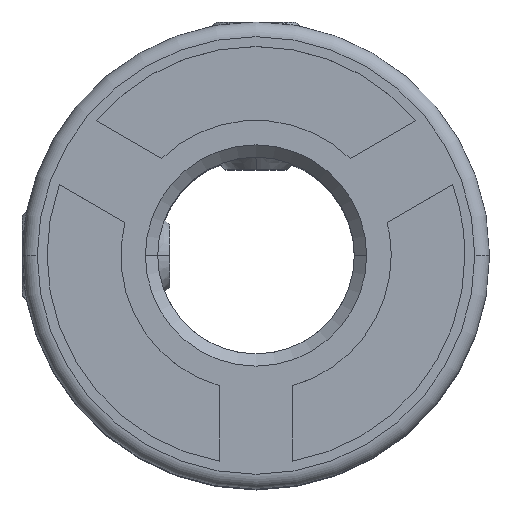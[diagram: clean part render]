
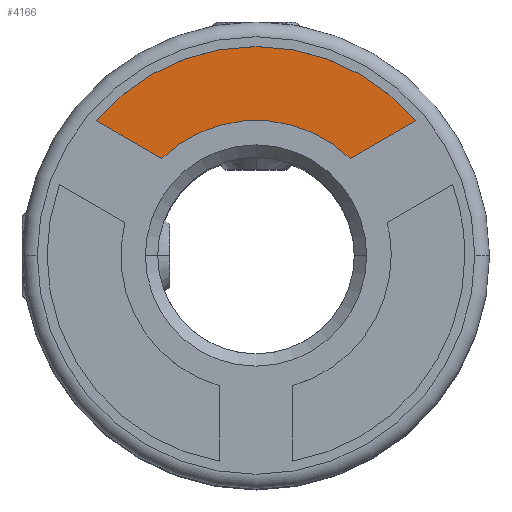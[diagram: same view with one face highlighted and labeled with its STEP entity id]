
A CAD part, top view. The second image highlights one B-rep face of the part: STEP entity #4166.
In plain terms, the highlighted planar face has unit normal (0, 0, 1).
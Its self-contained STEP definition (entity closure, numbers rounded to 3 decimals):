
#239 = AXIS2_PLACEMENT_3D ( 'NONE', #1240, #1775, #3499 ) ;
#312 = EDGE_LOOP ( 'NONE', ( #822, #331, #4829, #3690 ) ) ;
#331 = ORIENTED_EDGE ( 'NONE', *, *, #3317, .T. ) ;
#512 = DIRECTION ( 'NONE',  ( 0., 0., -1. ) ) ;
#822 = ORIENTED_EDGE ( 'NONE', *, *, #4962, .T. ) ;
#1156 = VERTEX_POINT ( 'NONE', #7121 ) ;
#1240 = CARTESIAN_POINT ( 'NONE',  ( 0., 0., 11. ) ) ;
#1633 = CARTESIAN_POINT ( 'NONE',  ( 0., 0., 11. ) ) ;
#1775 = DIRECTION ( 'NONE',  ( 0., 0., 1. ) ) ;
#1815 = AXIS2_PLACEMENT_3D ( 'NONE', #6854, #4107, #1841 ) ;
#1841 = DIRECTION ( 'NONE',  ( 1., 0., 0. ) ) ;
#1875 = CARTESIAN_POINT ( 'NONE',  ( 3.833, 3.945, 11. ) ) ;
#1884 = CARTESIAN_POINT ( 'NONE',  ( 6.496, 5.482, 11. ) ) ;
#1917 = PLANE ( 'NONE',  #1815 ) ;
#2524 = VERTEX_POINT ( 'NONE', #3706 ) ;
#2677 = EDGE_CURVE ( 'NONE', #6529, #2524, #4406, .T. ) ;
#2799 = VERTEX_POINT ( 'NONE', #1884 ) ;
#2838 = LINE ( 'NONE', #6799, #7077 ) ;
#3317 = EDGE_CURVE ( 'NONE', #1156, #6529, #2838, .T. ) ;
#3499 = DIRECTION ( 'NONE',  ( 1., 0., 0. ) ) ;
#3690 = ORIENTED_EDGE ( 'NONE', *, *, #6167, .T. ) ;
#3706 = CARTESIAN_POINT ( 'NONE',  ( 3.833, 3.945, 11. ) ) ;
#3822 = VECTOR ( 'NONE', #6337, 1000. ) ;
#4085 = FACE_OUTER_BOUND ( 'NONE', #312, .T. ) ;
#4107 = DIRECTION ( 'NONE',  ( 0., 0., 1. ) ) ;
#4166 = ADVANCED_FACE ( 'NONE', ( #4085 ), #1917, .T. ) ;
#4228 = LINE ( 'NONE', #1875, #3822 ) ;
#4372 = DIRECTION ( 'NONE',  ( -1., 0., 0. ) ) ;
#4406 = CIRCLE ( 'NONE', #6008, 5.5 ) ;
#4562 = DIRECTION ( 'NONE',  ( 0.866, -0.5, 0. ) ) ;
#4829 = ORIENTED_EDGE ( 'NONE', *, *, #2677, .T. ) ;
#4962 = EDGE_CURVE ( 'NONE', #2799, #1156, #5300, .T. ) ;
#5300 = CIRCLE ( 'NONE', #239, 8.5 ) ;
#6008 = AXIS2_PLACEMENT_3D ( 'NONE', #1633, #512, #4372 ) ;
#6135 = CARTESIAN_POINT ( 'NONE',  ( -3.833, 3.945, 11. ) ) ;
#6167 = EDGE_CURVE ( 'NONE', #2524, #2799, #4228, .T. ) ;
#6337 = DIRECTION ( 'NONE',  ( 0.866, 0.5, 0. ) ) ;
#6529 = VERTEX_POINT ( 'NONE', #6135 ) ;
#6799 = CARTESIAN_POINT ( 'NONE',  ( -6.496, 5.482, 11. ) ) ;
#6854 = CARTESIAN_POINT ( 'NONE',  ( 0., 0., 11. ) ) ;
#7077 = VECTOR ( 'NONE', #4562, 1000. ) ;
#7121 = CARTESIAN_POINT ( 'NONE',  ( -6.496, 5.482, 11. ) ) ;
